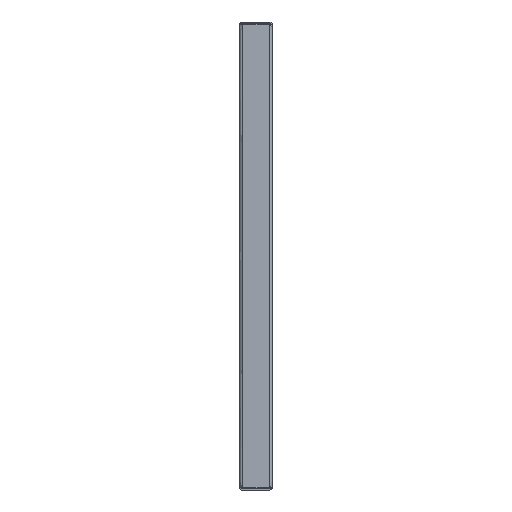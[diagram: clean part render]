
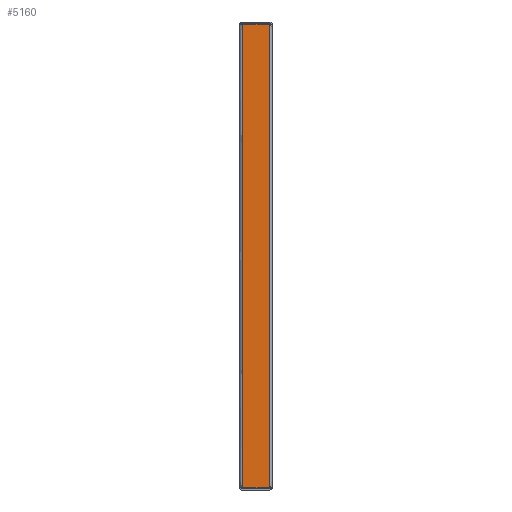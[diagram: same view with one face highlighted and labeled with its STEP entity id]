
A CAD part, left-side view. The second image highlights one B-rep face of the part: STEP entity #5160.
In plain terms, the highlighted free-form (B-spline) face has degree [1, 1] with [2, 2] control points.
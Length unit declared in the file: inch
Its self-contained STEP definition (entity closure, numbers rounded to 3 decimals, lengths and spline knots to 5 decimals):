
#4545=CARTESIAN_POINT('V190',(10.61783,-20.52369,
   -0.072));
#4546=VERTEX_POINT('V190',#4545);
#4605=CARTESIAN_POINT('V191',(-10.53217,
   -20.52369,-0.072));
#4606=VERTEX_POINT('V191',#4605);
#4620=CARTESIAN_POINT('E212',(-10.53217,
   -20.52369,-0.072));
#4621=CARTESIAN_POINT('E212',(10.61783,-20.52369,
   -0.072));
#4622=B_SPLINE_CURVE_WITH_KNOTS('E212',1,(#4620,#4621),
   .POLYLINE_FORM.,.F.,.U.,(2,2),(0.05357,
   0.94643),.UNSPECIFIED.);
#4623=EDGE_CURVE('E212',#4606,#4546,#4622,.T.);
#5085=CARTESIAN_POINT('V172',(-10.53217,
   -19.30769,-0.072));
#5086=VERTEX_POINT('V172',#5085);
#5092=CARTESIAN_POINT('E266',(-10.53217,
   -20.52369,-0.072));
#5093=CARTESIAN_POINT('E266',(-10.53217,
   -19.30769,-0.072));
#5094=B_SPLINE_CURVE_WITH_KNOTS('E266',1,(#5092,#5093),
   .POLYLINE_FORM.,.F.,.U.,(2,2),(0.05357,
   0.94643),.UNSPECIFIED.);
#5095=EDGE_CURVE('E266',#4606,#5086,#5094,.T.);
#5130=CARTESIAN_POINT('V171',(10.61783,-19.30769,
   -0.072));
#5131=VERTEX_POINT('V171',#5130);
#5132=CARTESIAN_POINT('E267',(10.61783,-19.30769,
   -0.072));
#5133=CARTESIAN_POINT('E267',(10.61783,-20.52369,
   -0.072));
#5134=B_SPLINE_CURVE_WITH_KNOTS('E267',1,(#5132,#5133),
   .POLYLINE_FORM.,.F.,.U.,(2,2),(0.05357,
   0.94643),.UNSPECIFIED.);
#5135=EDGE_CURVE('E267',#5131,#4546,#5134,.T.);
#5145=CARTESIAN_POINT('F61',(11.88683,-19.23473,
   -0.072));
#5146=CARTESIAN_POINT('F61',(11.88683,-20.59665,
   -0.072));
#5147=CARTESIAN_POINT('F61',(-11.80117,-19.23473,
   -0.072));
#5148=CARTESIAN_POINT('F61',(-11.80117,-20.59665,
   -0.072));
#5149=B_SPLINE_SURFACE_WITH_KNOTS('F61',1,1,((#5145,#5147),(#5146,
   #5148)),.PLANE_SURF.,.F.,.F.,.U.,(2,2),(2,2),(0.0,1.0),(0.0,
   17.36131),.UNSPECIFIED.);
#5150=CARTESIAN_POINT('E195',(10.61783,-19.30769,
   -0.072));
#5151=CARTESIAN_POINT('E195',(-10.53217,
   -19.30769,-0.072));
#5152=QUASI_UNIFORM_CURVE('E195',1,(#5150,#5151),.POLYLINE_FORM.,.F.,
   .U.);
#5153=EDGE_CURVE('E195',#5131,#5086,#5152,.T.);
#5154=ORIENTED_EDGE('E195',*,*,#5153,.F.);
#5155=ORIENTED_EDGE('E267',*,*,#5135,.T.);
#5156=ORIENTED_EDGE('F53',*,*,#4623,.F.);
#5157=ORIENTED_EDGE('E266',*,*,#5095,.T.);
#5158=EDGE_LOOP('F61',(#5154,#5155,#5156,#5157));
#5159=FACE_OUTER_BOUND('F61',#5158,.T.);
#5160=ADVANCED_FACE('F61',(#5159),#5149,.T.);
